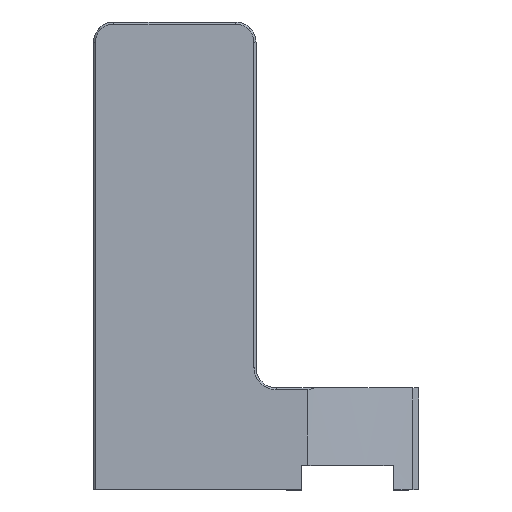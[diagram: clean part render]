
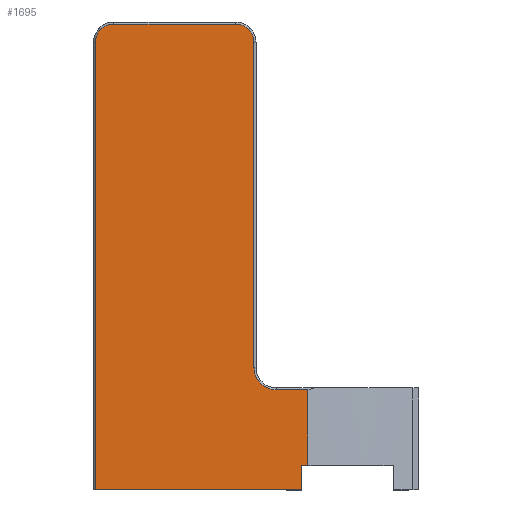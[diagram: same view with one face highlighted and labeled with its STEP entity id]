
A CAD part, top view. The second image highlights one B-rep face of the part: STEP entity #1695.
In plain terms, the highlighted planar face has unit normal (0, 0, 1).
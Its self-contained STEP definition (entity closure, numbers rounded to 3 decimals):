
#38 = DIRECTION ( 'NONE',  ( -1., 0., 0. ) ) ;
#61 = CARTESIAN_POINT ( 'NONE',  ( 7.9, 0., 15. ) ) ;
#85 = DIRECTION ( 'NONE',  ( -1., 0., 0. ) ) ;
#107 = ORIENTED_EDGE ( 'NONE', *, *, #1655, .F. ) ;
#127 = VERTEX_POINT ( 'NONE', #1642 ) ;
#154 = DIRECTION ( 'NONE',  ( 0., 0., -1. ) ) ;
#211 = CARTESIAN_POINT ( 'NONE',  ( 7., 22., 15. ) ) ;
#227 = EDGE_CURVE ( 'NONE', #1955, #2113, #670, .T. ) ;
#237 = DIRECTION ( 'NONE',  ( 1., 0., 0. ) ) ;
#280 = DIRECTION ( 'NONE',  ( 0., 0., 1. ) ) ;
#305 = CARTESIAN_POINT ( 'NONE',  ( 0., 0., 15. ) ) ;
#310 = AXIS2_PLACEMENT_3D ( 'NONE', #211, #1189, #38 ) ;
#352 = CARTESIAN_POINT ( 'NONE',  ( 0.1, 22., 15. ) ) ;
#391 = CARTESIAN_POINT ( 'NONE',  ( 1., 22.9, 15. ) ) ;
#444 = CIRCLE ( 'NONE', #1485, 1.1 ) ;
#456 = DIRECTION ( 'NONE',  ( 0., 0., -1. ) ) ;
#481 = FACE_OUTER_BOUND ( 'NONE', #2037, .T. ) ;
#526 = EDGE_CURVE ( 'NONE', #1282, #1996, #1898, .T. ) ;
#551 = EDGE_CURVE ( 'NONE', #1514, #127, #1360, .T. ) ;
#593 = EDGE_CURVE ( 'NONE', #1667, #2118, #930, .T. ) ;
#612 = ORIENTED_EDGE ( 'NONE', *, *, #1355, .T. ) ;
#649 = DIRECTION ( 'NONE',  ( -1., 0., 0. ) ) ;
#670 = LINE ( 'NONE', #2131, #693 ) ;
#682 = CARTESIAN_POINT ( 'NONE',  ( 10.25, 0., 15. ) ) ;
#693 = VECTOR ( 'NONE', #649, 1000. ) ;
#698 = CARTESIAN_POINT ( 'NONE',  ( 0.1, 0., 15. ) ) ;
#735 = EDGE_CURVE ( 'NONE', #993, #1952, #1629, .T. ) ;
#749 = ORIENTED_EDGE ( 'NONE', *, *, #735, .T. ) ;
#760 = AXIS2_PLACEMENT_3D ( 'NONE', #1419, #280, #1268 ) ;
#770 = VECTOR ( 'NONE', #1785, 1000. ) ;
#780 = ORIENTED_EDGE ( 'NONE', *, *, #1994, .T. ) ;
#824 = CARTESIAN_POINT ( 'NONE',  ( 10.557, 0., 15. ) ) ;
#842 = CARTESIAN_POINT ( 'NONE',  ( 10.25, 0., 15. ) ) ;
#930 = LINE ( 'NONE', #61, #1933 ) ;
#966 = AXIS2_PLACEMENT_3D ( 'NONE', #305, #154, #1131 ) ;
#993 = VERTEX_POINT ( 'NONE', #1477 ) ;
#1002 = CIRCLE ( 'NONE', #760, 0.9 ) ;
#1096 = EDGE_CURVE ( 'NONE', #2113, #1426, #1002, .T. ) ;
#1131 = DIRECTION ( 'NONE',  ( -1., 0., 0. ) ) ;
#1138 = CARTESIAN_POINT ( 'NONE',  ( 7.9, 6., 15. ) ) ;
#1168 = CARTESIAN_POINT ( 'NONE',  ( 0., 0., 15. ) ) ;
#1189 = DIRECTION ( 'NONE',  ( 0., 0., 1. ) ) ;
#1220 = CARTESIAN_POINT ( 'NONE',  ( 10.557, 4.9, 15. ) ) ;
#1223 = ORIENTED_EDGE ( 'NONE', *, *, #526, .T. ) ;
#1225 = CARTESIAN_POINT ( 'NONE',  ( 10.25, 1.2, 15. ) ) ;
#1226 = VECTOR ( 'NONE', #237, 1000. ) ;
#1254 = VECTOR ( 'NONE', #1846, 1000. ) ;
#1268 = DIRECTION ( 'NONE',  ( -1., 0., 0. ) ) ;
#1270 = DIRECTION ( 'NONE',  ( -1., 0., 0. ) ) ;
#1282 = VERTEX_POINT ( 'NONE', #1220 ) ;
#1310 = ORIENTED_EDGE ( 'NONE', *, *, #1722, .T. ) ;
#1355 = EDGE_CURVE ( 'NONE', #2118, #1955, #1469, .T. ) ;
#1360 = LINE ( 'NONE', #1225, #1226 ) ;
#1419 = CARTESIAN_POINT ( 'NONE',  ( 1., 22., 15. ) ) ;
#1425 = CARTESIAN_POINT ( 'NONE',  ( 9., 6., 15. ) ) ;
#1426 = VERTEX_POINT ( 'NONE', #352 ) ;
#1469 = CIRCLE ( 'NONE', #310, 0.9 ) ;
#1477 = CARTESIAN_POINT ( 'NONE',  ( 0.1, 0., 15. ) ) ;
#1482 = EDGE_CURVE ( 'NONE', #1952, #1514, #1971, .T. ) ;
#1485 = AXIS2_PLACEMENT_3D ( 'NONE', #1425, #456, #1270 ) ;
#1494 = ORIENTED_EDGE ( 'NONE', *, *, #227, .T. ) ;
#1514 = VERTEX_POINT ( 'NONE', #1983 ) ;
#1518 = ORIENTED_EDGE ( 'NONE', *, *, #1482, .T. ) ;
#1525 = DIRECTION ( 'NONE',  ( 0., 1., 0. ) ) ;
#1571 = LINE ( 'NONE', #698, #1254 ) ;
#1593 = ORIENTED_EDGE ( 'NONE', *, *, #551, .T. ) ;
#1606 = VECTOR ( 'NONE', #1802, 1000. ) ;
#1629 = LINE ( 'NONE', #1168, #1876 ) ;
#1642 = CARTESIAN_POINT ( 'NONE',  ( 10.557, 1.2, 15. ) ) ;
#1655 = EDGE_CURVE ( 'NONE', #1282, #127, #1817, .T. ) ;
#1663 = CARTESIAN_POINT ( 'NONE',  ( 9., 4.9, 15. ) ) ;
#1667 = VERTEX_POINT ( 'NONE', #1138 ) ;
#1695 = ADVANCED_FACE ( 'NONE', ( #481 ), #1778, .F. ) ;
#1706 = DIRECTION ( 'NONE',  ( 1., 0., 0. ) ) ;
#1722 = EDGE_CURVE ( 'NONE', #1996, #1667, #444, .T. ) ;
#1736 = ORIENTED_EDGE ( 'NONE', *, *, #593, .T. ) ;
#1778 = PLANE ( 'NONE',  #966 ) ;
#1785 = DIRECTION ( 'NONE',  ( 0., -1., 0. ) ) ;
#1802 = DIRECTION ( 'NONE',  ( 0., 1., 0. ) ) ;
#1817 = LINE ( 'NONE', #824, #770 ) ;
#1828 = CARTESIAN_POINT ( 'NONE',  ( 7., 22.9, 15. ) ) ;
#1846 = DIRECTION ( 'NONE',  ( 0., -1., 0. ) ) ;
#1876 = VECTOR ( 'NONE', #1706, 1000. ) ;
#1898 = LINE ( 'NONE', #2050, #2080 ) ;
#1933 = VECTOR ( 'NONE', #1525, 1000. ) ;
#1952 = VERTEX_POINT ( 'NONE', #682 ) ;
#1955 = VERTEX_POINT ( 'NONE', #1828 ) ;
#1971 = LINE ( 'NONE', #842, #1606 ) ;
#1983 = CARTESIAN_POINT ( 'NONE',  ( 10.25, 1.2, 15. ) ) ;
#1994 = EDGE_CURVE ( 'NONE', #1426, #993, #1571, .T. ) ;
#1996 = VERTEX_POINT ( 'NONE', #1663 ) ;
#2033 = CARTESIAN_POINT ( 'NONE',  ( 7.9, 22., 15. ) ) ;
#2037 = EDGE_LOOP ( 'NONE', ( #107, #1223, #1310, #1736, #612, #1494, #2099, #780, #749, #1518, #1593 ) ) ;
#2050 = CARTESIAN_POINT ( 'NONE',  ( 0., 4.9, 15. ) ) ;
#2080 = VECTOR ( 'NONE', #85, 1000. ) ;
#2099 = ORIENTED_EDGE ( 'NONE', *, *, #1096, .T. ) ;
#2113 = VERTEX_POINT ( 'NONE', #391 ) ;
#2118 = VERTEX_POINT ( 'NONE', #2033 ) ;
#2131 = CARTESIAN_POINT ( 'NONE',  ( 1., 22.9, 15. ) ) ;
